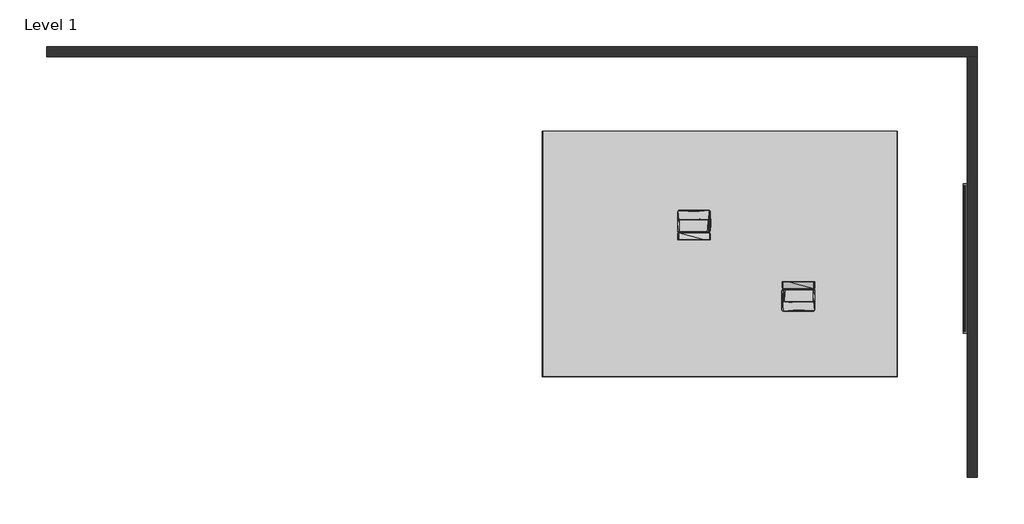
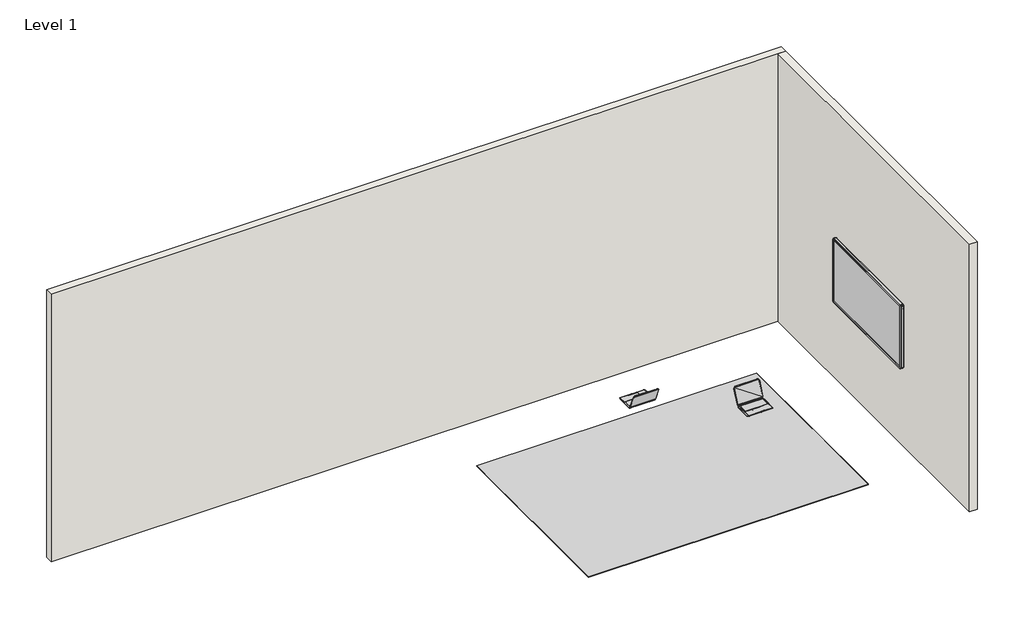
# One storey, incomplete: 4 furniture elements, 2 walls.
"""IFC4 building model written with IfcOpenShell, lengths in millimetres."""

from ifc_helpers import new_model, si_unit, origin, origin_with_axes, place, context, project, spatial, polyline, outline, extrude, faceted_brep, transform, mapped, element, save
from components import furniture_9ft_x_13ft_08a4db6d, laptop1_fbb91723, widescreenmonitorwithoutbase2_0dbde744

model = new_model("IFC4")

# Units and contexts
model_context = context("Model", 3, world=origin())
ifc_project = project(units=[si_unit("LENGTHUNIT", "METRE", prefix="MILLI")], contexts=[model_context])

# Site, building, storey
site = spatial("IfcSite", under=ifc_project)
building = spatial("IfcBuilding", under=site)
storey = spatial("IfcBuildingStorey", under=building, Name="Level 1", Elevation=0.0)

# Furniture
placement = place(None, origin())
furniture_9ft_x_13ft_shape = furniture_9ft_x_13ft_08a4db6d(model_context)
element("IfcFurniture", 1, ObjectType="Steelcase Coalesse - Nanimarquina - Rug - Diagonal : 9ft x 13ft", at=placement, inside=storey, context=model_context, shape_type="MappedRepresentation", body=[
    mapped(furniture_9ft_x_13ft_shape, transform((-37209.6012761, -228769.1923126, 0.0), x_axis=(0.9999999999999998, 0.0, 0.0), y_axis=(0.0, 0.9999999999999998, 0.0), z_axis=(0.0, 0.0, 1.0))),
])
laptop1_shape = laptop1_fbb91723(model_context)
element("IfcFurniture", 2, ObjectType="Laptop1 : 0.37 m x 0.35 m 2", at=placement, inside=storey, context=model_context, shape_type="MappedRepresentation", body=[
    mapped(laptop1_shape, transform((-35016.5844356, -229805.0632017, 1016.0000014), x_axis=(0.9999999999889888, 4.692820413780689e-06, 0.0), y_axis=(-4.692820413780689e-06, 0.9999999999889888, 0.0), z_axis=(0.0, 0.0, 1.0))),
])
element("IfcFurniture", 3, ObjectType="Laptop1 : 0.37 m x 0.35 m", at=placement, inside=storey, context=model_context, shape_type="MappedRepresentation", body=[
    mapped(laptop1_shape, transform((-36181.2586896, -229023.2711716, 1016.0000014), x_axis=(-0.9999999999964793, 2.65358979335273e-06, 0.0), y_axis=(-2.65358979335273e-06, -0.9999999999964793, 0.0), z_axis=(0.0, 0.0, 1.0))),
])
widescreenmonitorwithoutbase2_shape = widescreenmonitorwithoutbase2_0dbde744(model_context)
element("IfcFurniture", 4, ObjectType="WideScreenMonitorWithoutBase2 : 1.671 m x 0.111 m", at=placement, inside=storey, context=model_context, shape_type="MappedRepresentation", body=[
    mapped(widescreenmonitorwithoutbase2_shape, transform((-33171.3656067, -229389.503048, 1167.4198588), x_axis=(1.0196153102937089e-06, -0.9999999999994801, 0.0), y_axis=(0.9999999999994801, 1.0196153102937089e-06, 0.0), z_axis=(0.0, 0.0, 1.0))),
])

# Walls
element("IfcWall", 5, ObjectType="4.43 in", at=placement, inside=storey, context=model_context, shape_type="Brep", body=[
    faceted_brep([(-43406.64152, -227136.3153109, 0.0), (-33131.1971756, -227136.3135206, 0.0), (-33018.6751756, -227136.313501, 0.0), (-33018.6751756, -227136.313501, 3999.992), (-33131.1971756, -227136.3135206, 3999.992), (-43406.64152, -227136.3153109, 3999.992), (-43406.6415396, -227023.7933109, 0.0), (-43406.6415396, -227023.7933109, 3999.992), (-33018.6751917, -227023.791501, 3999.992), (-33018.6751917, -227023.791501, 0.0)], [[[0, 1, 2, 3, 4, 5]], [[6, 7, 8, 9]], [[2, 1, 0, 6, 9]], [[5, 4, 3, 8, 7]], [[0, 5, 7, 6]], [[3, 2, 9, 8]]]),
])
element("IfcWall", 6, ObjectType="4.43 in", at=placement, inside=storey, context=model_context, shape_type="SweptSolid", body=[
    extrude(outline(polyline([(-33131.1965041, -231829.7657789), (-33131.1971756, -227136.3135206), (-33018.6751756, -227136.313501), (-33018.6745041, -231829.7657628), (-33131.1965041, -231829.7657789)])), origin_with_axes(), (0.0, 0.0, 1.0), 3999.992),
])

save(model, "model.ifc")
